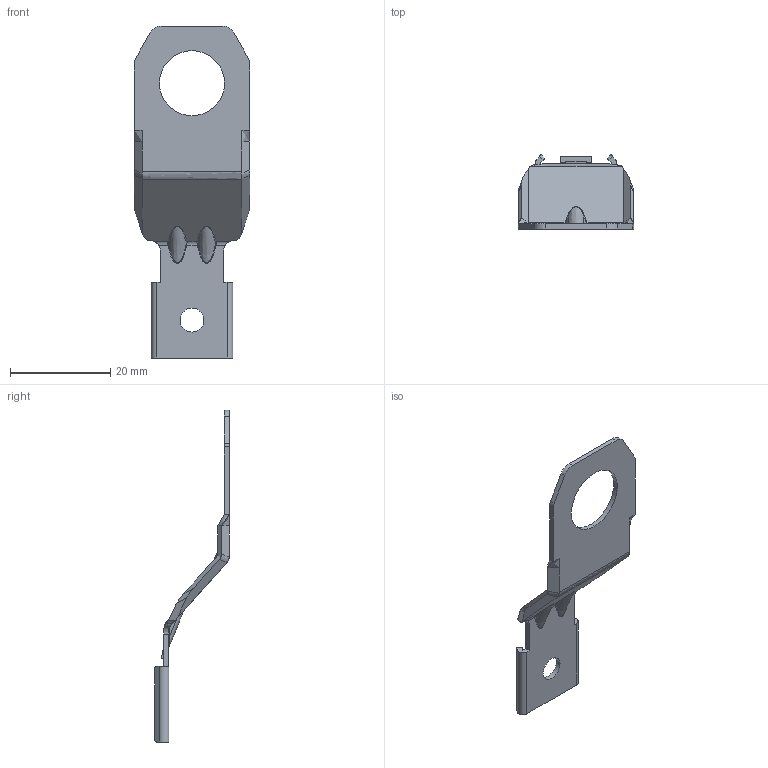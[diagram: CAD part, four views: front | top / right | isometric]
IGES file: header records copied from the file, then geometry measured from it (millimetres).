
Start section:  PTC IGES file: c-1027-002-0800-99-3d.igs
Global section: file name: c-1027-002-0800-99-3d.igs; native system: Pro/ENGINEER by Parametric Technology Corporation; preprocessor: 2011490; author: workeradm; organization: Unknown; units: millimetre
Bounding box: 23.06 x 14.92 x 66.31 mm (x, y, z)
Surface area: 2899.4 mm2 (no closed solid volume)
Topology: 0 solids, 0 shells, 122 faces, 642 edges, 642 vertices
Faces by surface type: bspline 74, revolution 48
